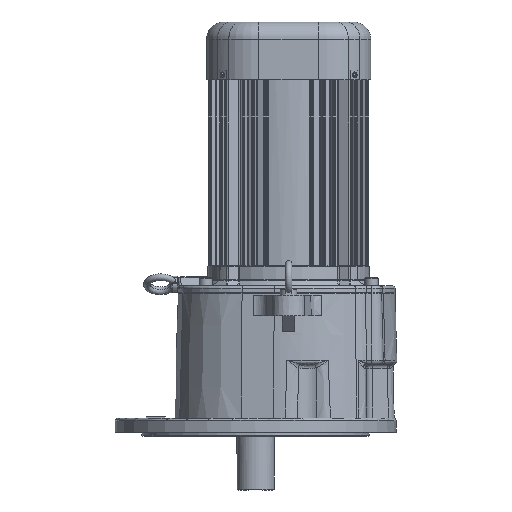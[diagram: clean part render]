
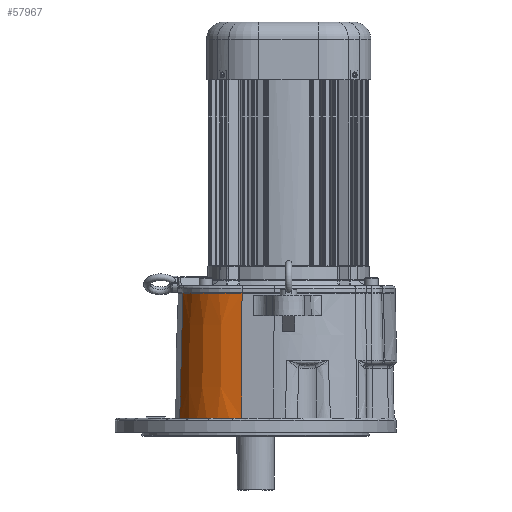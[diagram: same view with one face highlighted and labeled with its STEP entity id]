
A CAD part, left-side view. The second image highlights one B-rep face of the part: STEP entity #57967.
In plain terms, the highlighted conical face has half-angle 1.488 degrees and reference radius 89 mm.
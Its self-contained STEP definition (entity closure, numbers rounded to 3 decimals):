
#303=CONICAL_SURFACE('',#63348,89.,0.026);
#4389=LINE('',#124608,#7392);
#4390=LINE('',#124612,#7393);
#7392=VECTOR('',#76242,10.);
#7393=VECTOR('',#76247,10.);
#11572=FACE_OUTER_BOUND('',#15055,.T.);
#15055=EDGE_LOOP('',(#48464,#48465,#48466,#48467));
#18420=CIRCLE('',#63275,89.);
#18460=CIRCLE('',#63349,85.078);
#25568=VERTEX_POINT('',#124212);
#25569=VERTEX_POINT('',#124214);
#25626=VERTEX_POINT('',#124606);
#25627=VERTEX_POINT('',#124610);
#33351=EDGE_CURVE('',#25568,#25569,#18420,.T.);
#33442=EDGE_CURVE('',#25626,#25569,#4389,.T.);
#33443=EDGE_CURVE('',#25626,#25627,#18460,.T.);
#33444=EDGE_CURVE('',#25568,#25627,#4390,.T.);
#48464=ORIENTED_EDGE('',*,*,#33443,.F.);
#48465=ORIENTED_EDGE('',*,*,#33442,.T.);
#48466=ORIENTED_EDGE('',*,*,#33351,.F.);
#48467=ORIENTED_EDGE('',*,*,#33444,.T.);
#57967=ADVANCED_FACE('',(#11572),#303,.T.);
#63275=AXIS2_PLACEMENT_3D('',#124215,#76068,#76069);
#63348=AXIS2_PLACEMENT_3D('',#124609,#76243,#76244);
#63349=AXIS2_PLACEMENT_3D('',#124611,#76245,#76246);
#76068=DIRECTION('center_axis',(0.,0.,-1.));
#76069=DIRECTION('ref_axis',(-0.215,0.977,0.));
#76242=DIRECTION('',(-0.006,0.025,-1.));
#76243=DIRECTION('center_axis',(0.,0.,-1.));
#76244=DIRECTION('ref_axis',(-0.215,0.977,0.));
#76245=DIRECTION('center_axis',(0.,0.,1.));
#76246=DIRECTION('ref_axis',(-0.215,0.977,0.));
#76247=DIRECTION('',(0.026,-0.004,1.));
#124212=CARTESIAN_POINT('',(-142.664,25.943,-65.016));
#124214=CARTESIAN_POINT('',(-73.622,100.782,-65.016));
#124215=CARTESIAN_POINT('Origin',(-54.488,13.864,-65.016));
#124606=CARTESIAN_POINT('',(-72.779,96.952,85.984));
#124608=CARTESIAN_POINT('',(-72.762,96.876,88.984));
#124609=CARTESIAN_POINT('Origin',(-54.488,13.864,-65.016));
#124610=CARTESIAN_POINT('',(-138.778,25.411,85.984));
#124611=CARTESIAN_POINT('Origin',(-54.488,13.864,85.984));
#124612=CARTESIAN_POINT('',(-142.664,25.943,-65.016));
